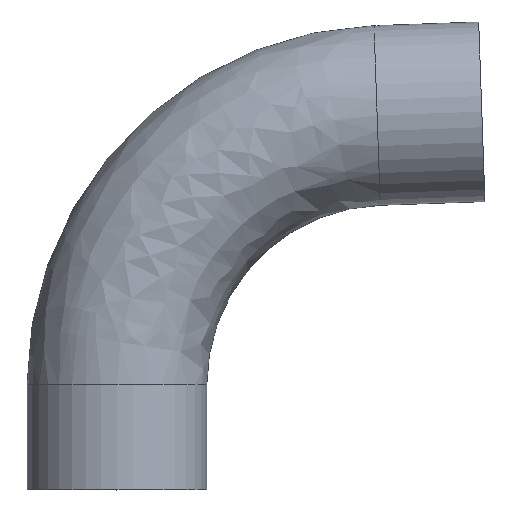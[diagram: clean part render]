
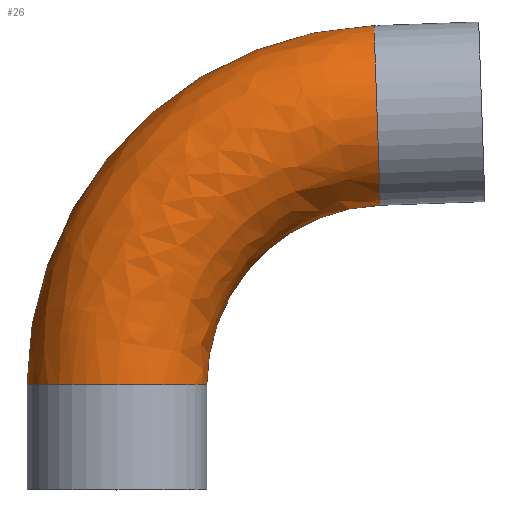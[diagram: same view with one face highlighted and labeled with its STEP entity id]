
A CAD part, top view. The second image highlights one B-rep face of the part: STEP entity #26.
In plain terms, the highlighted free-form (B-spline) face has degree [3, 3] with [4, 4] control points.
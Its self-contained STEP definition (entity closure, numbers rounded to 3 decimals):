
#2 = DIRECTION ( 'NONE',  ( -1., 0., 0. ) ) ;
#5 = EDGE_CURVE ( 'NONE', #184, #307, #245, .T. ) ;
#10 = CARTESIAN_POINT ( 'NONE',  ( 111.641, 120.643, 0. ) ) ;
#21 = AXIS2_PLACEMENT_3D ( 'NONE', #38, #289, #58 ) ;
#24 = CARTESIAN_POINT ( 'NONE',  ( 111.641, 120.643, 76.2 ) ) ;
#26 = ADVANCED_FACE ( 'NONE', ( #261 ), #74, .T. ) ;
#38 = CARTESIAN_POINT ( 'NONE',  ( 114.3, 44.49, 0. ) ) ;
#44 = CARTESIAN_POINT ( 'NONE',  ( 38.1, 44.49, 0. ) ) ;
#48 = VERTEX_POINT ( 'NONE', #400 ) ;
#51 = CARTESIAN_POINT ( 'NONE',  ( 108.981, 196.797, 0. ) ) ;
#58 = DIRECTION ( 'NONE',  ( -1., 0., 0. ) ) ;
#74 =( BOUNDED_SURFACE ( )  B_SPLINE_SURFACE ( 3, 3, ( 
 ( #458, #441, #452, #450 ),
 ( #423, #444, #443, #439 ),
 ( #432, #430, #76, #24 ),
 ( #366, #349, #352, #10 ) ),
 .UNSPECIFIED., .F., .F., .F. ) 
 B_SPLINE_SURFACE_WITH_KNOTS ( ( 4, 4 ),
 ( 4, 4 ),
 ( 0., 1. ),
 ( 0., 1. ),
 .UNSPECIFIED. ) 
 GEOMETRIC_REPRESENTATION_ITEM ( )  RATIONAL_B_SPLINE_SURFACE ( (
 ( 1., 0.813, 0.813, 1.),
 ( 0.333, 0.271, 0.271, 0.333),
 ( 0.333, 0.271, 0.271, 0.333),
 ( 1., 0.813, 0.813, 1.) ) ) 
 REPRESENTATION_ITEM ( '' )  SURFACE ( )  );
#76 = CARTESIAN_POINT ( 'NONE',  ( 68.256, 119.128, 76.2 ) ) ;
#103 = CARTESIAN_POINT ( 'NONE',  ( 110.311, 158.72, 0. ) ) ;
#108 = DIRECTION ( 'NONE',  ( -0.999, -0.035, 0. ) ) ;
#111 = DIRECTION ( 'NONE',  ( -0.035, 0.999, 0. ) ) ;
#113 = CARTESIAN_POINT ( 'NONE',  ( -38.1, 44.49, 0. ) ) ;
#138 = AXIS2_PLACEMENT_3D ( 'NONE', #388, #404, #2 ) ;
#161 = EDGE_CURVE ( 'NONE', #48, #299, #213, .T. ) ;
#164 = AXIS2_PLACEMENT_3D ( 'NONE', #103, #108, #111 ) ;
#184 = VERTEX_POINT ( 'NONE', #113 ) ;
#188 = CARTESIAN_POINT ( 'NONE',  ( 114.3, 44.49, 0. ) ) ;
#189 = DIRECTION ( 'NONE',  ( 0., 0., -1. ) ) ;
#196 = DIRECTION ( 'NONE',  ( -1., 0., 0. ) ) ;
#213 = CIRCLE ( 'NONE', #164, 38.1 ) ;
#240 = ORIENTED_EDGE ( 'NONE', *, *, #5, .T. ) ;
#244 = EDGE_LOOP ( 'NONE', ( #240, #460, #330, #398 ) ) ;
#245 = CIRCLE ( 'NONE', #138, 38.1 ) ;
#261 = FACE_OUTER_BOUND ( 'NONE', #244, .T. ) ;
#266 = EDGE_CURVE ( 'NONE', #307, #48, #369, .T. ) ;
#289 = DIRECTION ( 'NONE',  ( 0., 0., -1. ) ) ;
#290 = EDGE_CURVE ( 'NONE', #184, #299, #355, .T. ) ;
#299 = VERTEX_POINT ( 'NONE', #51 ) ;
#307 = VERTEX_POINT ( 'NONE', #44 ) ;
#330 = ORIENTED_EDGE ( 'NONE', *, *, #161, .T. ) ;
#349 = CARTESIAN_POINT ( 'NONE',  ( 38.1, 87.901, 0. ) ) ;
#352 = CARTESIAN_POINT ( 'NONE',  ( 68.256, 119.128, 0. ) ) ;
#355 = CIRCLE ( 'NONE', #21, 152.4 ) ;
#366 = CARTESIAN_POINT ( 'NONE',  ( 38.1, 44.49, 0. ) ) ;
#369 = CIRCLE ( 'NONE', #399, 76.2 ) ;
#388 = CARTESIAN_POINT ( 'NONE',  ( 0., 44.49, 0. ) ) ;
#398 = ORIENTED_EDGE ( 'NONE', *, *, #290, .F. ) ;
#399 = AXIS2_PLACEMENT_3D ( 'NONE', #188, #189, #196 ) ;
#400 = CARTESIAN_POINT ( 'NONE',  ( 111.641, 120.643, 0. ) ) ;
#404 = DIRECTION ( 'NONE',  ( 0., 1., 0. ) ) ;
#423 = CARTESIAN_POINT ( 'NONE',  ( -38.1, 44.49, 76.2 ) ) ;
#430 = CARTESIAN_POINT ( 'NONE',  ( 38.1, 87.901, 76.2 ) ) ;
#432 = CARTESIAN_POINT ( 'NONE',  ( 38.1, 44.49, 76.2 ) ) ;
#439 = CARTESIAN_POINT ( 'NONE',  ( 108.981, 196.797, 76.2 ) ) ;
#441 = CARTESIAN_POINT ( 'NONE',  ( -38.1, 131.312, 0. ) ) ;
#443 = CARTESIAN_POINT ( 'NONE',  ( 22.212, 193.767, 76.2 ) ) ;
#444 = CARTESIAN_POINT ( 'NONE',  ( -38.1, 131.312, 76.2 ) ) ;
#450 = CARTESIAN_POINT ( 'NONE',  ( 108.981, 196.797, 0. ) ) ;
#452 = CARTESIAN_POINT ( 'NONE',  ( 22.212, 193.767, 0. ) ) ;
#458 = CARTESIAN_POINT ( 'NONE',  ( -38.1, 44.49, 0. ) ) ;
#460 = ORIENTED_EDGE ( 'NONE', *, *, #266, .T. ) ;
